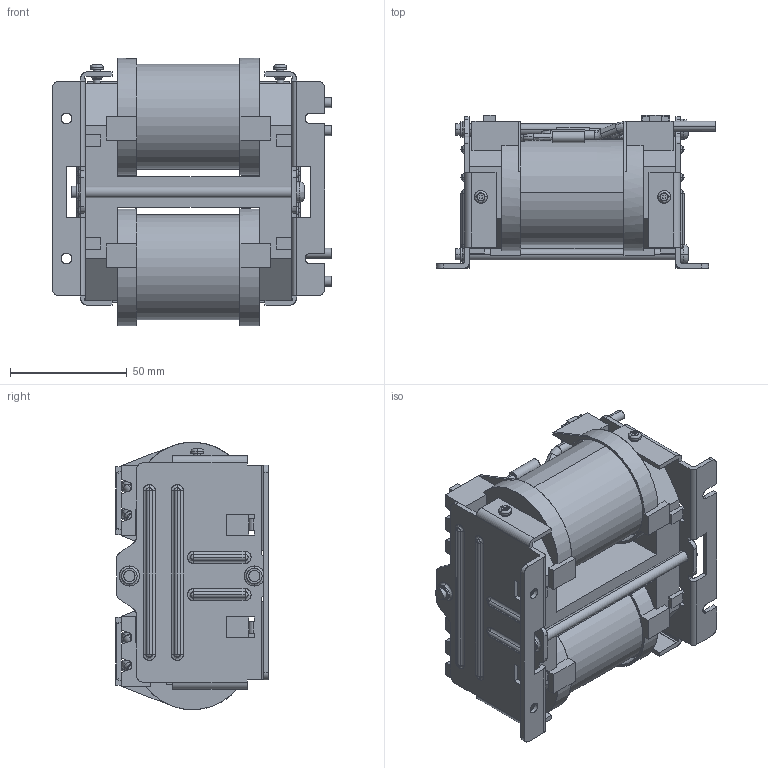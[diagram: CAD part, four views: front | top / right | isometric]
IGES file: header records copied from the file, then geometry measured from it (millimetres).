
Start section: SolidWorks IGES file using analytic representation for surfaces
Bounding box: 119.5 x 65.4 x 114.5 mm (x, y, z)
Surface area: 121326.5 mm2 (no closed solid volume)
Topology: 0 solids, 0 shells, 941 faces, 10943 edges, 10914 vertices
Faces by surface type: bspline 581, revolution 360
